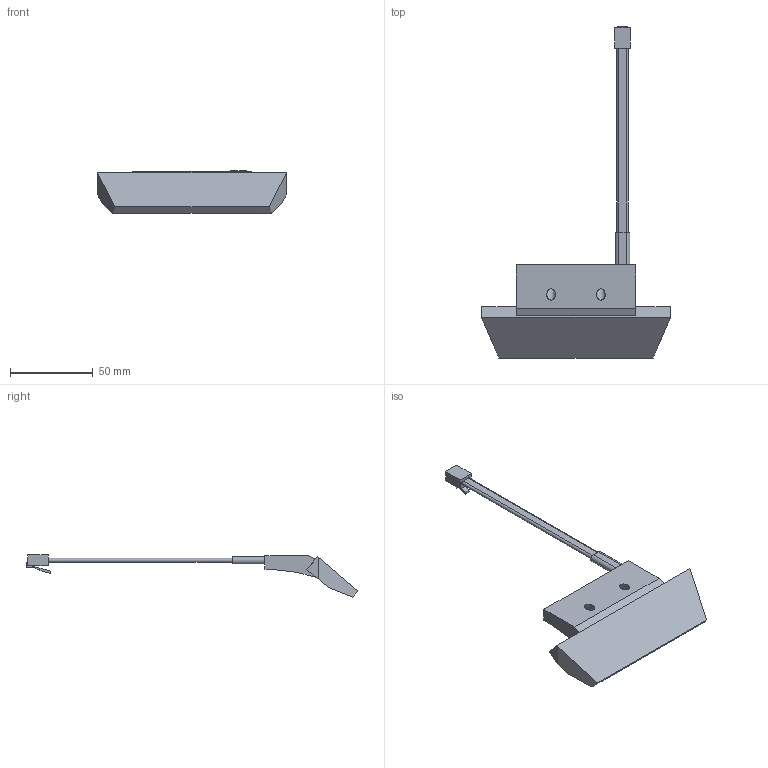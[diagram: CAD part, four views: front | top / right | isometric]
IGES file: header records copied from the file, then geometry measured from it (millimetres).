
Start section: Data from Parasolid IGES Translator 20.0.26, Copyright(c) 2006 Siemens P LM Software. All Rights Reserved.
Global section: file name: 9309939.igs; native system: By Siemens PLM Incorporated; preprocessor: XPlus GENERIC/IGES 20.0.26; author: Noname; organization: Noname; date: 20220201.105140; units: millimetre
Bounding box: 113.48 x 199.99 x 25.49 mm (x, y, z)
Surface area: 16680.5 mm2 (no closed solid volume)
Topology: 0 solids, 0 shells, 50 faces, 262 edges, 262 vertices
Faces by surface type: extrusion 44, revolution 6
